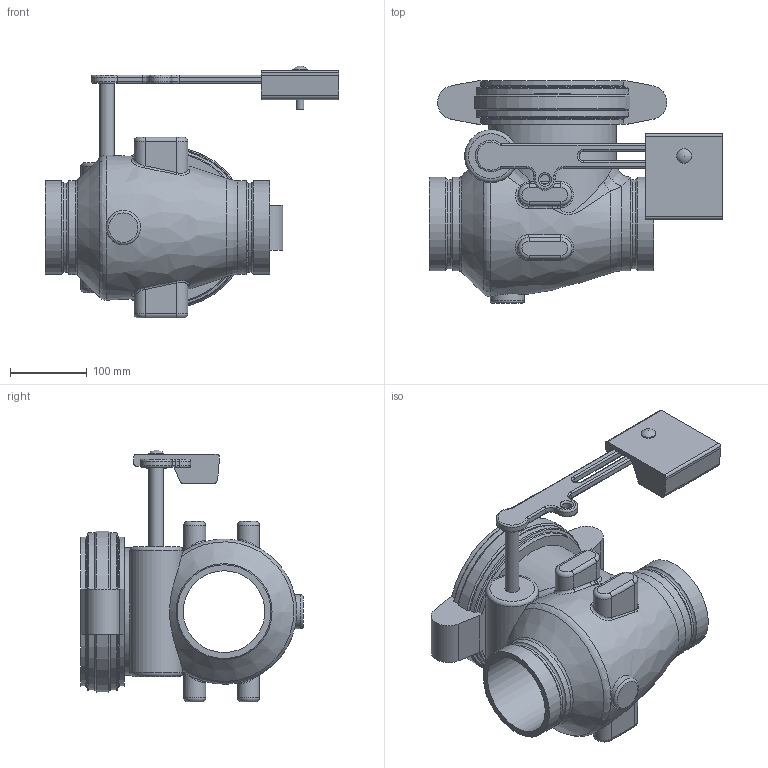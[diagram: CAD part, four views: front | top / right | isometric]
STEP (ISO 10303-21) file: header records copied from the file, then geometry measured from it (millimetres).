
FILE_DESCRIPTION(/* description */ ('VIC AWWA VALVE CHECK WEIGHT AND LEVER SERIES 317 (DRG)','CAx-IF Rec.Pracs.---Representation and Presentation of Product Manufacturing Information (PMI)---4.0---2014-10-13'),/* implementation_level */ '2;1');
FILE_NAME(/* name */ 'C:\Users\Vjadhav\Desktop\CAD for Inventor\1\317\STEP\Victaulic_AWWA_Valve Check Weight and Lever_Series 317 (DRG)\Victaulic_AWWA_Valve Check Weight and Lever_Series 317 (DRG)_4 (100).stp',/* time_stamp */ '2021-10-01T17:35:17+05:00',/* author */ ('jbrannon'),/* organization */ ('Victaulic'),/* preprocessor_version */ 'ST-DEVELOPER v17.2',/* originating_system */ 'Autodesk Inventor 2019',/* authorisation */ '');
FILE_SCHEMA (('AP242_MANAGED_MODEL_BASED_3D_ENGINEERING_MIM_LF { 1 0 10303 442 1 1 4 }'));
Length unit declared in the file: inch
Products named in the file (1): 317-04.0
Bounding box: 381.76 x 289.05 x 327.36 mm (x, y, z)
Volume: 7170160.5 mm3; surface area: 463179.9 mm2
Topology: 1 solids, 1 shells, 224 faces, 587 edges, 370 vertices
Faces by surface type: cylinder 76, plane 59, torus 51, bspline 28, cone 9, sphere 1
Full cylindrical faces by diameter (mm): 9.525 x2, 12.827 x1, 19.05 x2, 25.4 x1, 44.45 x1, 68.58 x1, 106.172 x1, 115.9 x2, 121.92 x3, 165.862 x1
Entity records: 8827 total; most frequent: CARTESIAN_POINT 3049, ORIENTED_EDGE 1172, DIRECTION 1165, EDGE_CURVE 586, AXIS2_PLACEMENT_3D 481, VERTEX_POINT 370, CIRCLE 271, EDGE_LOOP 240
